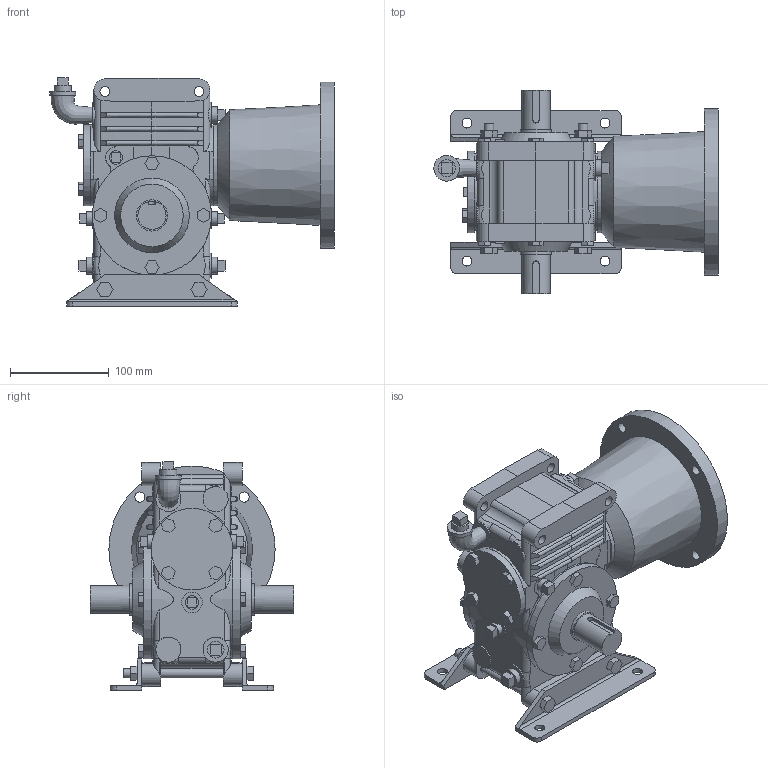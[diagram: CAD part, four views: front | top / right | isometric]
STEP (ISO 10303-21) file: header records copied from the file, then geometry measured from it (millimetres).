
FILE_DESCRIPTION(/* description */ ('Unknown'),/* implementation_level */ '2;1');
FILE_NAME(/* name */ 'HO-20-3--BNG010',/* time_stamp */ '2024-11-20T10:37:33-05:00',/* author */ ('Unknown'),/* organization */ ('Unknown'),/* preprocessor_version */ 'ST-DEVELOPER v19.4',/* originating_system */ 'Solid Edge',/* authorisation */ 'Unknown');
FILE_SCHEMA (('AUTOMOTIVE_DESIGN {1 0 10303 214 3 1 1}'));
Length unit declared in the file: millimetre
Products named in the file (5): HO-20-3--BNG010; 20-WO-CP; 20-OUTS; 20-MTR45-56C; 20-WCAP
Assembly tree (5 placements, depth 2):
  HO-20-3--BNG010
    20-WO-CP
    20-OUTS  x2
    20-MTR45-56C
    20-WCAP
Bounding box: 287.86 x 206.4 x 231.52 mm (x, y, z)
Volume: 3019735 mm3; surface area: 414695.9 mm2
Topology: 7 solids, 7 shells, 563 faces, 1394 edges, 922 vertices
Faces by surface type: plane 390, cylinder 140, bspline 25, cone 8
Full cylindrical faces by diameter (mm): 0.254 x5, 0.635 x3, 1.27 x1, 7.938 x8, 9.525 x4, 9.922 x4, 10.033 x8, 10.319 x4, 11.906 x4, 13.564 x4, 17.043 x4, 17.45 x1, 17.475 x1, 18.952 x1, 20.828 x2, 25.4 x8, 26.162 x1, 28.562 x2, 31.598 x2, 44.45 x1, 50.8 x1, 52.07 x1, 52.324 x1, 82.55 x2, 114.338 x1, 120.65 x2, 168.275 x1
Entity records: 17057 total; most frequent: CARTESIAN_POINT 4042, DIRECTION 2389, ORIENTED_EDGE 2326, EDGE_CURVE 1163, AXIS2_PLACEMENT_3D 809, VERTEX_POINT 804, LINE 771, VECTOR 771
